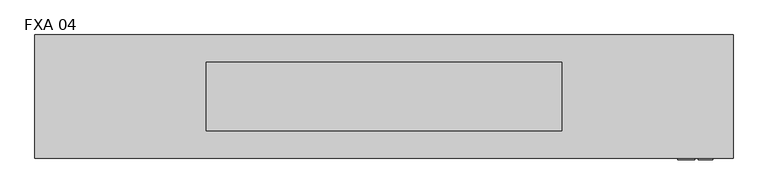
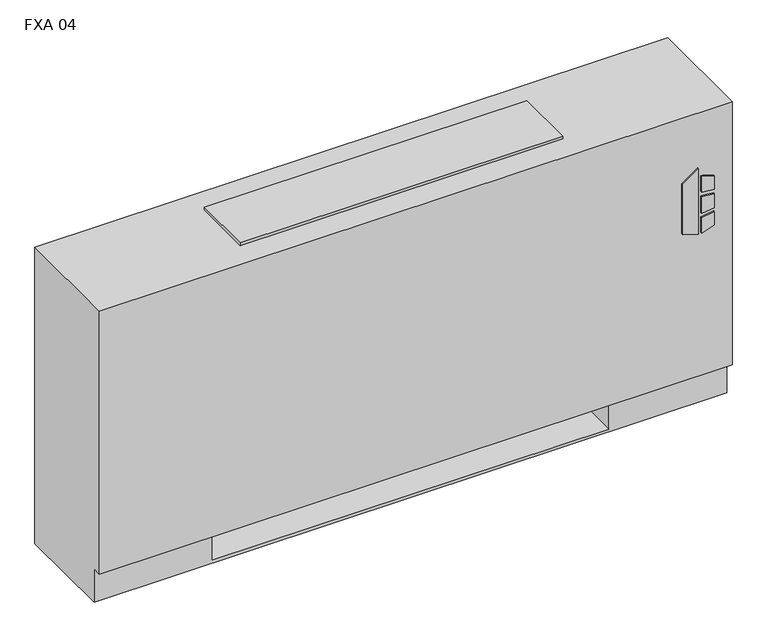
"""IFC4 building model written with IfcOpenShell, lengths in millimetres: proxy geometry, Vertical_Fan_Coil_Unit_-_FXA_-_IEC_-_4-Pipe_TS-FR_LH_2022 : FXA 04."""

from ifc_helpers import new_model, si_unit, point, frame, frame_2d, origin, place, context, project, spatial, polyline, circle_curve, trimmed, segment, composite_curve, outline, extrude, source, transform, mapped, element, save
from ifc_brep_helpers import plane_surface, revolved_surface, advanced_brep


def fxa_04_6abc8613(model_context):
    return source(origin(), model_context, "Body", "SolidModel", [
        extrude(outline(polyline([(391.6086829, 696.9868862), (381.6606126, 729.1602728), (523.831537, 729.1602728), (500.8095309, 696.9868862), (391.6086829, 696.9868862)])), frame((0.0, 12.7, 0.0), z_axis=(0.0, 1.0, 0.0), x_axis=(0.0, 0.0, 1.0)), (0.0, 0.0, 1.0), 3.175),
        extrude(outline(polyline([(470.6079683, 735.9186058), (467.4055757, 762.0), (496.6344168, 762.0), (504.6988318, 735.9186058), (470.6079683, 735.9186058)])), frame((0.0, 12.7, 0.0), z_axis=(0.0, 1.0, 0.0), x_axis=(0.0, 0.0, 1.0)), (0.0, 0.0, 1.0), 3.175),
        extrude(outline(polyline([(418.7444414, 762.0), (415.0789404, 735.9186058), (381.6606126, 735.9186058), (390.2948498, 762.0), (418.7444414, 762.0)])), frame((0.0, 12.7, 0.0), z_axis=(0.0, 1.0, 0.0), x_axis=(0.0, 0.0, 1.0)), (0.0, 0.0, 1.0), 3.175),
        extrude(outline(polyline([(458.0596028, 762.0), (460.3414292, 735.9186058), (424.4038806, 735.9186058), (427.1451456, 762.0), (458.0596028, 762.0)])), frame((0.0, 12.7, 0.0), z_axis=(0.0, 1.0, 0.0), x_axis=(0.0, 0.0, 1.0)), (0.0, 0.0, 1.0), 3.175),
        extrude(outline(polyline([(679.45, 223.266), (679.45, 81.534), (558.8, 81.534), (558.8, 223.266), (679.45, 223.266)])), frame((0.0, 0.0, 327.025), z_axis=(0.0, 0.0, 1.0), x_axis=(1.0, 0.0, 0.0)), (0.0, 0.0, 1.0), 260.35),
        extrude(outline(composite_curve([segment(trimmed(circle_curve(frame_2d((-317.5, 130.175)), 9.525), [point((-327.025, 130.175))], [point((-307.975, 130.175))], False, "CARTESIAN"), True, "CONTINUOUS"), segment(trimmed(circle_curve(frame_2d((-317.5, 130.175)), 9.525), [point((-307.975, 130.175))], [point((-327.025, 130.175))], False, "CARTESIAN"), True, "CONTINUOUS")], self_intersect=False)), frame((0.0, 0.0, 101.6), z_axis=(0.0, 0.0, 1.0), x_axis=(1.0, 0.0, 0.0)), (0.0, 0.0, 1.0), 25.4),
        extrude(outline(polyline([(-412.75, 63.5), (-412.75, 196.85), (-254.0, 196.85), (-254.0, 63.5), (-412.75, 63.5)])), frame((0.0, 0.0, 127.0), z_axis=(0.0, 0.0, 1.0), x_axis=(1.0, 0.0, 0.0)), (0.0, 0.0, 1.0), 50.8),
        extrude(outline(composite_curve([segment(trimmed(circle_curve(frame_2d((117.475, 472.44)), 7.9375), [point((117.475, 480.3775))], [point((117.475, 464.5025))], False, "CARTESIAN"), True, "CONTINUOUS"), segment(trimmed(circle_curve(frame_2d((117.475, 472.44)), 7.9375), [point((117.475, 464.5025))], [point((117.475, 480.3775))], False, "CARTESIAN"), True, "CONTINUOUS")], self_intersect=False)), frame((-304.8, 0.0, 0.0), z_axis=(1.0, 0.0, 0.0), x_axis=(0.0, 1.0, 0.0)), (0.0, 0.0, 1.0), 50.8),
        extrude(outline(composite_curve([segment(trimmed(circle_curve(frame_2d((164.0586, 445.897)), 7.9375), [point((164.0586, 453.8345))], [point((164.0586, 437.9595))], False, "CARTESIAN"), True, "CONTINUOUS"), segment(trimmed(circle_curve(frame_2d((164.0586, 445.897)), 7.9375), [point((164.0586, 437.9595))], [point((164.0586, 453.8345))], False, "CARTESIAN"), True, "CONTINUOUS")], self_intersect=False)), frame((-304.8, 0.0, 0.0), z_axis=(1.0, 0.0, 0.0), x_axis=(0.0, 1.0, 0.0)), (0.0, 0.0, 1.0), 50.8),
        extrude(outline(composite_curve([segment(trimmed(circle_curve(frame_2d((201.248777, 554.99)), 7.9502), [point((201.248777, 562.9402))], [point((201.248777, 547.0398))], False, "CARTESIAN"), True, "CONTINUOUS"), segment(trimmed(circle_curve(frame_2d((201.248777, 554.99)), 7.9502), [point((201.248777, 547.0398))], [point((201.248777, 562.9402))], False, "CARTESIAN"), True, "CONTINUOUS")], self_intersect=False)), frame((-304.8, 0.0, 0.0), z_axis=(1.0, 0.0, 0.0), x_axis=(0.0, 1.0, 0.0)), (0.0, 0.0, 1.0), 50.8),
        extrude(outline(composite_curve([segment(trimmed(circle_curve(frame_2d((53.975, 416.56)), 7.9502), [point((53.975, 424.5102))], [point((53.975, 408.6098))], False, "CARTESIAN"), True, "CONTINUOUS"), segment(trimmed(circle_curve(frame_2d((53.975, 416.56)), 7.9502), [point((53.975, 408.6098))], [point((53.975, 424.5102))], False, "CARTESIAN"), True, "CONTINUOUS")], self_intersect=False)), frame((-304.8, 0.0, 0.0), z_axis=(1.0, 0.0, 0.0), x_axis=(0.0, 1.0, 0.0)), (0.0, 0.0, 1.0), 50.8),
        advanced_brep(
        [(800.1, 244.475, 641.35), (-495.3, 244.475, 641.35), (-495.3, 15.875, 641.35), (800.1, 15.875, 641.35), (-495.3, 244.475, 0.0), (800.1, 244.475, 0.0), (800.1, 34.925, 0.0), (-495.3, 34.925, 0.0), (558.8, 244.475, 73.025), (787.4, 244.475, 73.025), (787.4, 244.475, 628.65), (558.8, 244.475, 628.65), (558.8, 244.475, 414.8650565), (587.375, 244.475, 414.8650565), (587.375, 244.475, 385.2349435), (558.8, 244.475, 385.2349435), (558.8, 244.475, 287.3375), (587.375, 244.475, 287.3375), (587.375, 244.475, 258.7625), (558.8, 244.475, 258.7625), (558.8, 244.475, 141.2875), (587.375, 244.475, 141.2875), (587.375, 244.475, 112.7125), (558.8, 244.475, 112.7125), (-254.0, 244.475, 628.65), (-482.6, 244.475, 628.65), (-482.6, 244.475, 73.025), (-254.0, 244.475, 73.025), (-254.0, 244.475, 112.7125), (-282.575, 244.475, 112.7125), (-282.575, 244.475, 141.2875), (-254.0, 244.475, 141.2875), (-254.0, 244.475, 258.7625), (-282.575, 244.475, 258.7625), (-282.575, 244.475, 287.3375), (-254.0, 244.475, 287.3375), (-254.0, 244.475, 385.2349435), (-282.575, 244.475, 385.2349435), (-282.575, 244.475, 414.8650565), (-254.0, 244.475, 414.8650565), (577.0626, 244.475, 127.0), (565.9374, 244.475, 127.0), (577.0626, 244.475, 400.05), (565.9374, 244.475, 400.05), (577.0626, 244.475, 273.05), (565.9374, 244.475, 273.05), (-261.1374, 244.475, 127.0), (-272.2626, 244.475, 127.0), (-261.1374, 244.475, 273.05), (-272.2626, 244.475, 273.05), (-261.1374, 244.475, 400.05), (-272.2626, 244.475, 400.05), (-495.3, 34.925, 73.025), (-495.3, 15.875, 73.025), (800.1, 15.875, 73.025), (800.1, 34.925, 73.025), (-254.0, 34.925, 73.025), (-254.0, 219.075, 73.025), (558.8, 219.075, 73.025), (558.8, 34.925, 73.025), (558.8, 34.925, 6.35), (-254.0, 34.925, 6.35), (558.8, 41.275, 628.65), (787.4, 41.275, 628.65), (787.4, 41.275, 73.025), (558.8, 41.275, 73.025), (-254.0, 41.275, 628.65), (-254.0, 41.275, 73.025), (-482.6, 41.275, 73.025), (-482.6, 41.275, 628.65), (558.8, 219.075, 73.025), (558.8, 238.125, 112.7125), (558.8, 238.125, 141.2875), (558.8, 238.125, 258.7625), (558.8, 238.125, 287.3375), (558.8, 238.125, 385.2349435), (558.8, 238.125, 414.8650565), (-254.0, 219.075, 73.025), (-254.0, 238.125, 414.8650565), (-254.0, 238.125, 385.2349435), (-254.0, 238.125, 287.3375), (-254.0, 238.125, 258.7625), (-254.0, 238.125, 141.2875), (-254.0, 238.125, 112.7125), (-254.0, 219.075, 6.35), (558.8, 219.075, 6.35), (587.375, 238.125, 112.7125), (587.375, 238.125, 141.2875), (565.9374, 238.125, 127.0), (577.0626, 238.125, 127.0), (587.375, 238.125, 258.7625), (587.375, 238.125, 287.3375), (565.9374, 238.125, 273.05), (577.0626, 238.125, 273.05), (587.375, 238.125, 385.2349435), (587.375, 238.125, 414.8650565), (565.9374, 238.125, 400.05), (577.0626, 238.125, 400.05), (-282.575, 238.125, 141.2875), (-282.575, 238.125, 112.7125), (-272.2626, 238.125, 127.0), (-261.1374, 238.125, 127.0), (-282.575, 238.125, 287.3375), (-282.575, 238.125, 258.7625), (-272.2626, 238.125, 273.05), (-261.1374, 238.125, 273.05), (-282.575, 238.125, 414.8650565), (-282.575, 238.125, 385.2349435), (-272.2626, 238.125, 400.05), (-261.1374, 238.125, 400.05)],
        [
            (0, 1),
            (1, 2),
            (2, 3),
            (3, 0),
            (4, 5),
            (5, 6),
            (6, 7),
            (7, 4),
            (0, 5),
            (4, 1),
            (8, 9),
            (9, 10),
            (10, 11),
            (11, 12),
            (12, 13),
            (13, 14),
            (14, 15),
            (15, 16),
            (16, 17),
            (17, 18),
            (18, 19),
            (19, 20),
            (20, 21),
            (21, 22),
            (22, 23),
            (23, 8),
            (24, 25),
            (25, 26),
            (26, 27),
            (27, 28),
            (28, 29),
            (29, 30),
            (30, 31),
            (31, 32),
            (32, 33),
            (33, 34),
            (34, 35),
            (35, 36),
            (36, 37),
            (37, 38),
            (38, 39),
            (39, 24),
            (40, 41, circle_curve(frame((571.5, 244.475, 127.0), z_axis=(0.0, -1.0, 0.0), x_axis=(-1.0, 0.0, 0.0)), 5.5626)),
            (41, 40, circle_curve(frame((571.5, 244.475, 127.0), z_axis=(0.0, -1.0, 0.0), x_axis=(-1.0, 0.0, 0.0)), 5.5626)),
            (42, 43, circle_curve(frame((571.5, 244.475, 400.05), z_axis=(0.0, -1.0, 0.0), x_axis=(-1.0, 0.0, 0.0)), 5.5626)),
            (43, 42, circle_curve(frame((571.5, 244.475, 400.05), z_axis=(0.0, -1.0, 0.0), x_axis=(-1.0, 0.0, 0.0)), 5.5626)),
            (44, 45, circle_curve(frame((571.5, 244.475, 273.05), z_axis=(0.0, -1.0, 0.0), x_axis=(-1.0, 0.0, 0.0)), 5.5626)),
            (45, 44, circle_curve(frame((571.5, 244.475, 273.05), z_axis=(0.0, -1.0, 0.0), x_axis=(-1.0, 0.0, 0.0)), 5.5626)),
            (46, 47, circle_curve(frame((-266.7, 244.475, 127.0), z_axis=(0.0, -1.0, 0.0), x_axis=(-1.0, 0.0, 0.0)), 5.5626)),
            (47, 46, circle_curve(frame((-266.7, 244.475, 127.0), z_axis=(0.0, -1.0, 0.0), x_axis=(-1.0, 0.0, 0.0)), 5.5626)),
            (48, 49, circle_curve(frame((-266.7, 244.475, 273.05), z_axis=(0.0, -1.0, 0.0), x_axis=(-1.0, 0.0, 0.0)), 5.5626)),
            (49, 48, circle_curve(frame((-266.7, 244.475, 273.05), z_axis=(0.0, -1.0, 0.0), x_axis=(-1.0, 0.0, 0.0)), 5.5626)),
            (50, 51, circle_curve(frame((-266.7, 244.475, 400.05), z_axis=(0.0, -1.0, 0.0), x_axis=(-1.0, 0.0, 0.0)), 5.5626)),
            (51, 50, circle_curve(frame((-266.7, 244.475, 400.05), z_axis=(0.0, -1.0, 0.0), x_axis=(-1.0, 0.0, 0.0)), 5.5626)),
            (7, 52),
            (52, 53),
            (53, 2),
            (53, 54),
            (54, 3),
            (54, 55),
            (55, 6),
            (52, 56),
            (56, 57),
            (57, 58),
            (58, 59),
            (59, 55),
            (59, 60),
            (60, 61),
            (61, 56),
            (62, 63),
            (63, 64),
            (64, 65),
            (65, 62),
            (66, 67),
            (67, 68),
            (68, 69),
            (69, 66),
            (65, 70),
            (70, 8),
            (23, 71),
            (71, 72),
            (72, 20),
            (19, 73),
            (73, 74),
            (74, 16),
            (15, 75),
            (75, 76),
            (76, 12),
            (11, 62),
            (64, 9),
            (63, 10),
            (69, 25),
            (24, 66),
            (68, 26),
            (67, 77),
            (77, 27),
            (39, 78),
            (78, 79),
            (79, 36),
            (35, 80),
            (80, 81),
            (81, 32),
            (31, 82),
            (82, 83),
            (83, 28),
            (57, 84),
            (84, 85),
            (85, 58),
            (85, 60),
            (84, 61),
            (71, 86),
            (86, 87),
            (87, 72),
            (88, 89, circle_curve(frame((571.5, 238.125, 127.0), z_axis=(0.0, 1.0, 0.0), x_axis=(-1.0, 0.0, 0.0)), 5.5626)),
            (89, 88, circle_curve(frame((571.5, 238.125, 127.0), z_axis=(0.0, 1.0, 0.0), x_axis=(-1.0, 0.0, 0.0)), 5.5626)),
            (73, 90),
            (90, 91),
            (91, 74),
            (92, 93, circle_curve(frame((571.5, 238.125, 273.05), z_axis=(0.0, 1.0, 0.0), x_axis=(-1.0, 0.0, 0.0)), 5.5626)),
            (93, 92, circle_curve(frame((571.5, 238.125, 273.05), z_axis=(0.0, 1.0, 0.0), x_axis=(-1.0, 0.0, 0.0)), 5.5626)),
            (75, 94),
            (94, 95),
            (95, 76),
            (96, 97, circle_curve(frame((571.5, 238.125, 400.05), z_axis=(0.0, 1.0, 0.0), x_axis=(-1.0, 0.0, 0.0)), 5.5626)),
            (97, 96, circle_curve(frame((571.5, 238.125, 400.05), z_axis=(0.0, 1.0, 0.0), x_axis=(-1.0, 0.0, 0.0)), 5.5626)),
            (98, 99),
            (99, 83),
            (82, 98),
            (100, 101, circle_curve(frame((-266.7, 238.125, 127.0), z_axis=(0.0, 1.0, 0.0), x_axis=(-1.0, 0.0, 0.0)), 5.5626)),
            (101, 100, circle_curve(frame((-266.7, 238.125, 127.0), z_axis=(0.0, 1.0, 0.0), x_axis=(-1.0, 0.0, 0.0)), 5.5626)),
            (102, 103),
            (103, 81),
            (80, 102),
            (104, 105, circle_curve(frame((-266.7, 238.125, 273.05), z_axis=(0.0, 1.0, 0.0), x_axis=(-1.0, 0.0, 0.0)), 5.5626)),
            (105, 104, circle_curve(frame((-266.7, 238.125, 273.05), z_axis=(0.0, 1.0, 0.0), x_axis=(-1.0, 0.0, 0.0)), 5.5626)),
            (106, 107),
            (107, 79),
            (78, 106),
            (108, 109, circle_curve(frame((-266.7, 238.125, 400.05), z_axis=(0.0, 1.0, 0.0), x_axis=(-1.0, 0.0, 0.0)), 5.5626)),
            (109, 108, circle_curve(frame((-266.7, 238.125, 400.05), z_axis=(0.0, 1.0, 0.0), x_axis=(-1.0, 0.0, 0.0)), 5.5626)),
            (87, 21),
            (86, 22),
            (91, 17),
            (90, 18),
            (95, 13),
            (94, 14),
            (30, 98),
            (99, 29),
            (34, 102),
            (103, 33),
            (38, 106),
            (107, 37),
            (88, 41),
            (40, 89),
            (96, 43),
            (42, 97),
            (92, 45),
            (44, 93),
            (100, 47),
            (46, 101),
            (104, 49),
            (48, 105),
            (108, 51),
            (50, 109),
        ],
        [
            plane_surface(frame((-495.3, 244.475, 641.35), z_axis=(0.0, 0.0, 1.0), x_axis=(-1.0, 0.0, 0.0))),
            plane_surface(frame((-495.3, 244.475, 0.0), z_axis=(0.0, 0.0, -1.0), x_axis=(1.0, 0.0, 0.0))),
            plane_surface(frame((800.1, 244.475, 641.35), z_axis=(0.0, 1.0, 0.0), x_axis=(0.0, 0.0, -1.0))),
            plane_surface(frame((-495.3, 244.475, 641.35), z_axis=(-1.0, 0.0, 0.0), x_axis=(0.0, 0.0, -1.0))),
            plane_surface(frame((-495.3, 15.875, 641.35), z_axis=(0.0, -1.0, 0.0), x_axis=(0.0, 0.0, -1.0))),
            plane_surface(frame((800.1, 15.875, 641.35), z_axis=(1.0, 0.0, 0.0), x_axis=(0.0, 0.0, -1.0))),
            plane_surface(frame((-495.3, 15.875, 73.025), z_axis=(0.0, 0.0, -1.0), x_axis=(1.0, 0.0, 0.0))),
            plane_surface(frame((-495.3, 34.925, 73.025), z_axis=(0.0, -1.0, 0.0), x_axis=(1.0, 0.0, 0.0))),
            plane_surface(frame((558.8, 41.275, 628.65), z_axis=(0.0, 1.0, 0.0), x_axis=(0.0, 0.0, -1.0))),
            plane_surface(frame((558.8, 41.275, 628.65), z_axis=(1.0, 0.0, 0.0), x_axis=(0.0, 1.0, 0.0))),
            plane_surface(frame((558.8, 41.275, 73.025), z_axis=(0.0, 0.0, 1.0), x_axis=(0.0, 1.0, 0.0))),
            plane_surface(frame((787.4, 41.275, 73.025), z_axis=(-1.0, 0.0, 0.0), x_axis=(0.0, 1.0, 0.0))),
            plane_surface(frame((787.4, 41.275, 628.65), z_axis=(0.0, 0.0, -1.0), x_axis=(0.0, 1.0, 0.0))),
            plane_surface(frame((-254.0, 41.275, 628.65), z_axis=(0.0, 0.0, -1.0), x_axis=(0.0, 1.0, 0.0))),
            plane_surface(frame((-482.6, 41.275, 628.65), z_axis=(1.0, 0.0, 0.0), x_axis=(0.0, 1.0, 0.0))),
            plane_surface(frame((-482.6, 41.275, 73.025), z_axis=(0.0, 0.0, 1.0), x_axis=(0.0, 1.0, 0.0))),
            plane_surface(frame((-254.0, 41.275, 73.025), z_axis=(-1.0, 0.0, 0.0), x_axis=(0.0, 1.0, 0.0))),
            plane_surface(frame((558.8, 219.075, 73.025), z_axis=(0.0, -1.0, 0.0), x_axis=(0.0, 0.0, -1.0))),
            plane_surface(frame((558.8, 219.075, 73.025), z_axis=(-1.0, 0.0, 0.0), x_axis=(0.0, -1.0, 0.0))),
            plane_surface(frame((558.8, 219.075, 6.35), z_axis=(0.0, 0.0, 1.0), x_axis=(0.0, -1.0, 0.0))),
            plane_surface(frame((-254.0, 219.075, 6.35), z_axis=(1.0, 0.0, 0.0), x_axis=(0.0, -1.0, 0.0))),
            plane_surface(frame((587.375, 238.125, 141.2875), z_axis=(0.0, -1.0, 0.0), x_axis=(-1.0, 0.0, 0.0))),
            plane_surface(frame((558.8, 244.475, 141.2875), z_axis=(0.0, 0.0, 1.0), x_axis=(0.0, -1.0, 0.0))),
            plane_surface(frame((587.375, 244.475, 141.2875), z_axis=(1.0, 0.0, 0.0), x_axis=(0.0, -1.0, 0.0))),
            plane_surface(frame((587.375, 244.475, 112.7125), z_axis=(0.0, 0.0, -1.0), x_axis=(0.0, -1.0, 0.0))),
            plane_surface(frame((558.8, 244.475, 287.3375), z_axis=(0.0, 0.0, 1.0), x_axis=(0.0, -1.0, 0.0))),
            plane_surface(frame((587.375, 244.475, 287.3375), z_axis=(1.0, 0.0, 0.0), x_axis=(0.0, -1.0, 0.0))),
            plane_surface(frame((587.375, 244.475, 258.7625), z_axis=(0.0, 0.0, -1.0), x_axis=(0.0, -1.0, 0.0))),
            plane_surface(frame((558.8, 244.475, 414.8650565), z_axis=(0.0, 0.0, 1.0), x_axis=(0.0, -1.0, 0.0))),
            plane_surface(frame((587.375, 244.475, 414.8650565), z_axis=(1.0, 0.0, 0.0), x_axis=(0.0, -1.0, 0.0))),
            plane_surface(frame((587.375, 244.475, 385.2349435), z_axis=(0.0, 0.0, -1.0), x_axis=(0.0, -1.0, 0.0))),
            plane_surface(frame((-282.575, 244.475, 141.2875), z_axis=(0.0, 0.0, 1.0), x_axis=(0.0, -1.0, 0.0))),
            plane_surface(frame((-254.0, 244.475, 112.7125), z_axis=(0.0, 0.0, -1.0), x_axis=(0.0, -1.0, 0.0))),
            plane_surface(frame((-282.575, 244.475, 112.7125), z_axis=(-1.0, 0.0, 0.0), x_axis=(0.0, -1.0, 0.0))),
            plane_surface(frame((-282.575, 244.475, 287.3375), z_axis=(0.0, 0.0, 1.0), x_axis=(0.0, -1.0, 0.0))),
            plane_surface(frame((-254.0, 244.475, 258.7625), z_axis=(0.0, 0.0, -1.0), x_axis=(0.0, -1.0, 0.0))),
            plane_surface(frame((-282.575, 244.475, 258.7625), z_axis=(-1.0, 0.0, 0.0), x_axis=(0.0, -1.0, 0.0))),
            plane_surface(frame((-282.575, 244.475, 414.8650565), z_axis=(0.0, 0.0, 1.0), x_axis=(0.0, -1.0, 0.0))),
            plane_surface(frame((-254.0, 244.475, 385.2349435), z_axis=(0.0, 0.0, -1.0), x_axis=(0.0, -1.0, 0.0))),
            plane_surface(frame((-282.575, 244.475, 385.2349435), z_axis=(-1.0, 0.0, 0.0), x_axis=(0.0, -1.0, 0.0))),
            revolved_surface(polyline([(565.9374, 238.125, 127.0), (565.9374, 244.475, 127.0)]), (571.5, 244.475, 127.0), (0.0, -1.0, 0.0)),
            revolved_surface(polyline([(565.9374, 238.125, 400.05), (565.9374, 244.475, 400.05)]), (571.5, 244.475, 400.05), (0.0, -1.0, 0.0)),
            revolved_surface(polyline([(565.9374, 238.125, 273.05), (565.9374, 244.475, 273.05)]), (571.5, 244.475, 273.05), (0.0, -1.0, 0.0)),
            revolved_surface(polyline([(-272.26259999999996, 238.125, 127.0), (-272.26259999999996, 244.475, 127.0)]), (-266.7, 244.475, 127.0), (0.0, -1.0, 0.0)),
            revolved_surface(polyline([(-272.26259999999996, 238.125, 273.05), (-272.26259999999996, 244.475, 273.05)]), (-266.7, 244.475, 273.05), (0.0, -1.0, 0.0)),
            revolved_surface(polyline([(-272.26259999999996, 238.125, 400.05), (-272.26259999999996, 244.475, 400.05)]), (-266.7, 244.475, 400.05), (0.0, -1.0, 0.0)),
        ],
        [
            (0, [[1, 2, 3, 4]]),
            (1, [[5, 6, 7, 8]]),
            (2, [[-1, 9, -5, 10], [11, 12, 13, 14, 15, 16, 17, 18, 19, 20, 21, 22, 23, 24, 25, 26], [27, 28, 29, 30, 31, 32, 33, 34, 35, 36, 37, 38, 39, 40, 41, 42], [43, 44], [45, 46], [47, 48], [49, 50], [51, 52], [53, 54]]),
            (3, [[-2, -10, -8, 55, 56, 57]]),
            (4, [[-3, -57, 58, 59]]),
            (5, [[-4, -59, 60, 61, -6, -9]]),
            (6, [[-56, 62, 63, 64, 65, 66, -60, -58]]),
            (7, [[-7, -61, -66, 67, 68, 69, -62, -55]]),
            (8, [[70, 71, 72, 73]]),
            (8, [[74, 75, 76, 77]]),
            (9, [[-73, 78, 79, -26, 80, 81, 82, -22, 83, 84, 85, -18, 86, 87, 88, -14, 89]]),
            (10, [[-72, 90, -11, -79, -78]]),
            (11, [[-71, 91, -12, -90]]),
            (12, [[-70, -89, -13, -91]]),
            (13, [[-77, 92, -27, 93]]),
            (14, [[-76, 94, -28, -92]]),
            (15, [[-75, 95, 96, -29, -94]]),
            (16, [[-74, -93, -42, 97, 98, 99, -38, 100, 101, 102, -34, 103, 104, 105, -30, -96, -95]]),
            (17, [[-64, 106, 107, 108]]),
            (18, [[-108, 109, -67, -65]]),
            (19, [[-107, 110, -68, -109]]),
            (20, [[-106, -63, -69, -110]]),
            (21, [[111, 112, 113, -81], [114, 115]]),
            (21, [[116, 117, 118, -84], [119, 120]]),
            (21, [[121, 122, 123, -87], [124, 125]]),
            (21, [[126, 127, -104, 128], [129, 130]]),
            (21, [[131, 132, -101, 133], [134, 135]]),
            (21, [[136, 137, -98, 138], [139, 140]]),
            (22, [[-113, 141, -23, -82]]),
            (23, [[-112, 142, -24, -141]]),
            (24, [[-111, -80, -25, -142]]),
            (25, [[-118, 143, -19, -85]]),
            (26, [[-117, 144, -20, -143]]),
            (27, [[-116, -83, -21, -144]]),
            (28, [[-123, 145, -15, -88]]),
            (29, [[-122, 146, -16, -145]]),
            (30, [[-121, -86, -17, -146]]),
            (31, [[-128, -103, -33, 147]]),
            (32, [[-127, 148, -31, -105]]),
            (33, [[-126, -147, -32, -148]]),
            (34, [[-133, -100, -37, 149]]),
            (35, [[-132, 150, -35, -102]]),
            (36, [[-131, -149, -36, -150]]),
            (37, [[-138, -97, -41, 151]]),
            (38, [[-137, 152, -39, -99]]),
            (39, [[-136, -151, -40, -152]]),
            (40, [[153, -43, 154, -114]]),
            (40, [[-153, -115, -154, -44]]),
            (41, [[155, -45, 156, -124]]),
            (41, [[-155, -125, -156, -46]]),
            (42, [[157, -47, 158, -119]]),
            (42, [[-157, -120, -158, -48]]),
            (43, [[159, -49, 160, -129]]),
            (43, [[-159, -130, -160, -50]]),
            (44, [[161, -51, 162, -134]]),
            (44, [[-161, -135, -162, -52]]),
            (45, [[163, -53, 164, -139]]),
            (45, [[-163, -140, -164, -54]]),
        ],
    ),
        extrude(outline(polyline([(482.6, 193.675), (482.6, 66.675), (-177.8, 66.675), (-177.8, 193.675), (482.6, 193.675)])), frame((0.0, 0.0, 641.35), z_axis=(0.0, 0.0, 1.0), x_axis=(1.0, 0.0, 0.0)), (0.0, 0.0, 1.0), 6.35),
    ])


if __name__ == "__main__":
    model = new_model("IFC4")
    model_context = context("Model", 3, world=origin())
    ifc_project = project(units=[si_unit("LENGTHUNIT", "METRE", prefix="MILLI")], contexts=[model_context])
    site = spatial("IfcSite", under=ifc_project)
    building = spatial("IfcBuilding", under=site)
    placement = place(None, origin())
    fxa_04_shape = fxa_04_6abc8613(model_context)
    element("IfcBuildingElementProxy", 1, Name="Vertical_Fan_Coil_Unit_-_FXA_-_IEC_-_4-Pipe_TS-FR_LH_2022 : FXA 04", ObjectType="Vertical_Fan_Coil_Unit_-_FXA_-_IEC_-_4-Pipe_TS-FR_LH_2022 : FXA 04", at=placement, inside=building, context=model_context, shape_type="MappedRepresentation", body=[
        mapped(fxa_04_shape, transform((0.0, 0.0, 0.0), x_axis=(1.0, 0.0, 0.0), y_axis=(0.0, 1.0, 0.0), z_axis=(0.0, 0.0, 1.0))),
    ])
    save(model, "model.ifc")
